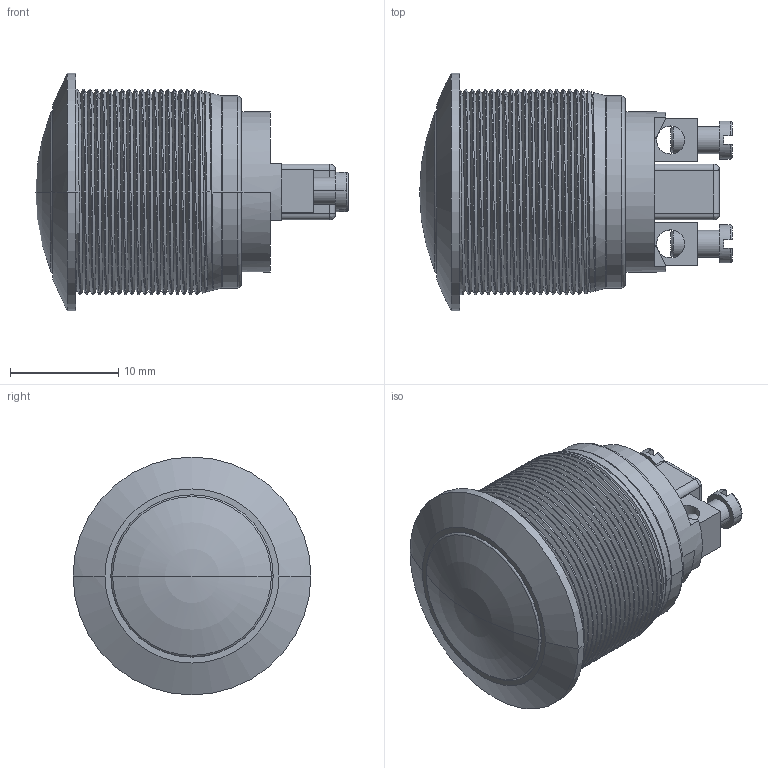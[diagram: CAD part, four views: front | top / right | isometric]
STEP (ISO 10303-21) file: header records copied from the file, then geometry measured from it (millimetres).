
FILE_DESCRIPTION((''),'2;1');
FILE_NAME('AV191003C9_SW0001','2010-11-19T',('jlgachon'),(''),'PRO/ENGINEER BY PARAMETRIC TECHNOLOGY CORPORATION, 2010280','PRO/ENGINEER BY PARAMETRIC TECHNOLOGY CORPORATION, 2010280','');
FILE_SCHEMA(('CONFIG_CONTROL_DESIGN'));
Length unit declared in the file: millimetre
Products named in the file (1): AV191003C9_SW0001
Bounding box: 28.9 x 22 x 22 mm (x, y, z)
Surface area: 2842.4 mm2 (no closed solid volume)
Topology: 0 solids, 7 shells, 144 faces, 396 edges, 260 vertices
Faces by surface type: cylinder 63, plane 42, bspline 16, torus 10, cone 9, sphere 4
Entity records: 13812 total; most frequent: CARTESIAN_POINT 10347, ORIENTED_EDGE 737, DIRECTION 628, EDGE_CURVE 394, VERTEX_POINT 260, AXIS2_PLACEMENT_3D 226, VECTOR 176, LINE 176
